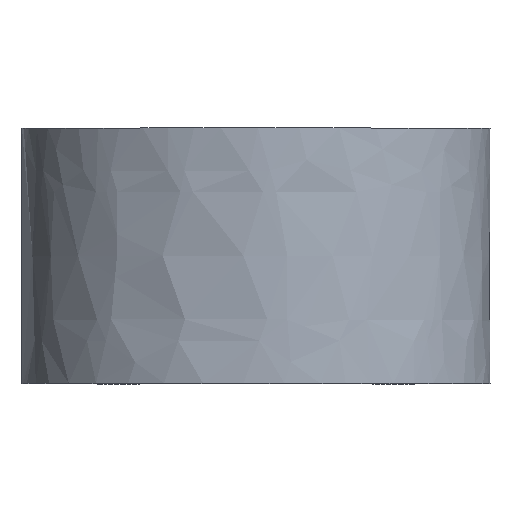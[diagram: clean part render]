
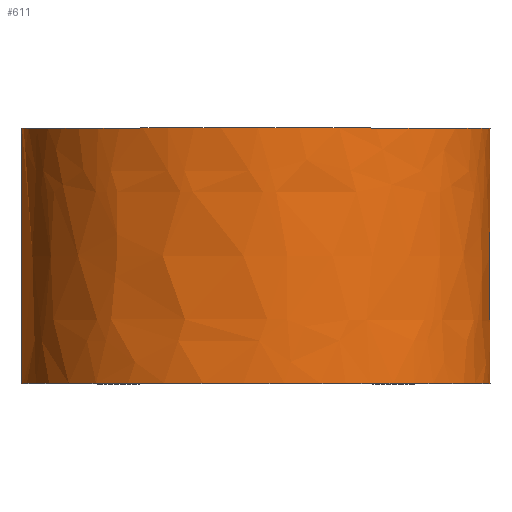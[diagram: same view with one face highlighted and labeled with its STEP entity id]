
A CAD part, top view. The second image highlights one B-rep face of the part: STEP entity #611.
In plain terms, the highlighted free-form (B-spline) face has degree [1, 2] with [2, 9] control points.
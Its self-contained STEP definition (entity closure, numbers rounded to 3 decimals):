
#15=ELLIPSE('',#677,11.,8.9);
#16=ELLIPSE('',#678,11.,8.9);
#17=ELLIPSE('',#679,11.,8.9);
#18=ELLIPSE('',#680,11.,8.9);
#19=(
BOUNDED_SURFACE()
B_SPLINE_SURFACE(1,2,((#990,#991,#992,#993,#994,#995,#996,#997,#998),(#999,
#1000,#1001,#1002,#1003,#1004,#1005,#1006,#1007)),.UNSPECIFIED.,.F.,.T.,
 .F.)
B_SPLINE_SURFACE_WITH_KNOTS((2,2),(3,2,2,2,3),(-0.605,0.486),
(-3.142,-1.571,0.,1.571,3.142),
 .UNSPECIFIED.)
GEOMETRIC_REPRESENTATION_ITEM()
RATIONAL_B_SPLINE_SURFACE(((1.,0.707,1.,0.707,1.,
0.707,1.,0.707,1.),(1.,0.707,1.,0.707,
1.,0.707,1.,0.707,1.)))
REPRESENTATION_ITEM('')
SURFACE()
);
#30=FACE_BOUND('',#111,.T.);
#70=FACE_OUTER_BOUND('',#110,.T.);
#110=EDGE_LOOP('',(#465,#466,#467,#468));
#111=EDGE_LOOP('',(#469,#470,#471,#472));
#169=LINE('',#1011,#230);
#170=LINE('',#1017,#231);
#171=LINE('',#1020,#232);
#230=VECTOR('',#802,11.);
#231=VECTOR('',#807,10.);
#232=VECTOR('',#810,10.);
#287=VERTEX_POINT('',#1008);
#288=VERTEX_POINT('',#1010);
#289=VERTEX_POINT('',#1013);
#290=VERTEX_POINT('',#1014);
#291=VERTEX_POINT('',#1016);
#292=VERTEX_POINT('',#1018);
#353=EDGE_CURVE('',#287,#287,#15,.T.);
#354=EDGE_CURVE('',#287,#288,#169,.T.);
#355=EDGE_CURVE('',#288,#288,#16,.T.);
#356=EDGE_CURVE('',#289,#290,#17,.T.);
#357=EDGE_CURVE('',#291,#289,#170,.T.);
#358=EDGE_CURVE('',#292,#291,#18,.T.);
#359=EDGE_CURVE('',#290,#292,#171,.T.);
#465=ORIENTED_EDGE('',*,*,#353,.F.);
#466=ORIENTED_EDGE('',*,*,#354,.T.);
#467=ORIENTED_EDGE('',*,*,#355,.F.);
#468=ORIENTED_EDGE('',*,*,#354,.F.);
#469=ORIENTED_EDGE('',*,*,#356,.F.);
#470=ORIENTED_EDGE('',*,*,#357,.F.);
#471=ORIENTED_EDGE('',*,*,#358,.F.);
#472=ORIENTED_EDGE('',*,*,#359,.F.);
#611=ADVANCED_FACE('',(#70,#30),#19,.F.);
#677=AXIS2_PLACEMENT_3D('',#1009,#800,#801);
#678=AXIS2_PLACEMENT_3D('',#1012,#803,#804);
#679=AXIS2_PLACEMENT_3D('',#1015,#805,#806);
#680=AXIS2_PLACEMENT_3D('',#1019,#808,#809);
#800=DIRECTION('center_axis',(0.,1.,0.));
#801=DIRECTION('ref_axis',(1.,0.,0.));
#802=DIRECTION('',(0.,-1.,0.));
#803=DIRECTION('center_axis',(0.,-1.,0.));
#804=DIRECTION('ref_axis',(1.,0.,0.));
#805=DIRECTION('center_axis',(0.,1.,0.));
#806=DIRECTION('ref_axis',(1.,0.,0.));
#807=DIRECTION('',(0.,-1.,0.));
#808=DIRECTION('center_axis',(0.,-1.,0.));
#809=DIRECTION('ref_axis',(1.,0.,0.));
#810=DIRECTION('',(0.,1.,0.));
#990=CARTESIAN_POINT('Ctrl Pts',(-11.,-6.65,16.1));
#991=CARTESIAN_POINT('Ctrl Pts',(-11.,-6.65,25.));
#992=CARTESIAN_POINT('Ctrl Pts',(0.,-6.65,25.));
#993=CARTESIAN_POINT('Ctrl Pts',(11.,-6.65,25.));
#994=CARTESIAN_POINT('Ctrl Pts',(11.,-6.65,16.1));
#995=CARTESIAN_POINT('Ctrl Pts',(11.,-6.65,7.2));
#996=CARTESIAN_POINT('Ctrl Pts',(0.,-6.65,7.2));
#997=CARTESIAN_POINT('Ctrl Pts',(-11.,-6.65,7.2));
#998=CARTESIAN_POINT('Ctrl Pts',(-11.,-6.65,16.1));
#999=CARTESIAN_POINT('Ctrl Pts',(-11.,5.35,16.1));
#1000=CARTESIAN_POINT('Ctrl Pts',(-11.,5.35,25.));
#1001=CARTESIAN_POINT('Ctrl Pts',(0.,5.35,25.));
#1002=CARTESIAN_POINT('Ctrl Pts',(11.,5.35,25.));
#1003=CARTESIAN_POINT('Ctrl Pts',(11.,5.35,16.1));
#1004=CARTESIAN_POINT('Ctrl Pts',(11.,5.35,7.2));
#1005=CARTESIAN_POINT('Ctrl Pts',(0.,5.35,7.2));
#1006=CARTESIAN_POINT('Ctrl Pts',(-11.,5.35,7.2));
#1007=CARTESIAN_POINT('Ctrl Pts',(-11.,5.35,16.1));
#1008=CARTESIAN_POINT('',(-11.,5.35,16.1));
#1009=CARTESIAN_POINT('Origin',(0.,5.35,16.1));
#1010=CARTESIAN_POINT('',(-11.,-6.65,16.1));
#1011=CARTESIAN_POINT('',(-11.,0.,16.1));
#1012=CARTESIAN_POINT('Origin',(0.,-6.65,16.1));
#1013=CARTESIAN_POINT('',(5.128,-2.5,8.226));
#1014=CARTESIAN_POINT('',(-5.128,-2.5,8.226));
#1015=CARTESIAN_POINT('Origin',(0.,-2.5,16.1));
#1016=CARTESIAN_POINT('',(5.128,2.5,8.226));
#1017=CARTESIAN_POINT('',(5.128,0.,8.226));
#1018=CARTESIAN_POINT('',(-5.128,2.5,8.226));
#1019=CARTESIAN_POINT('Origin',(0.,2.5,16.1));
#1020=CARTESIAN_POINT('',(-5.128,0.,8.226));
